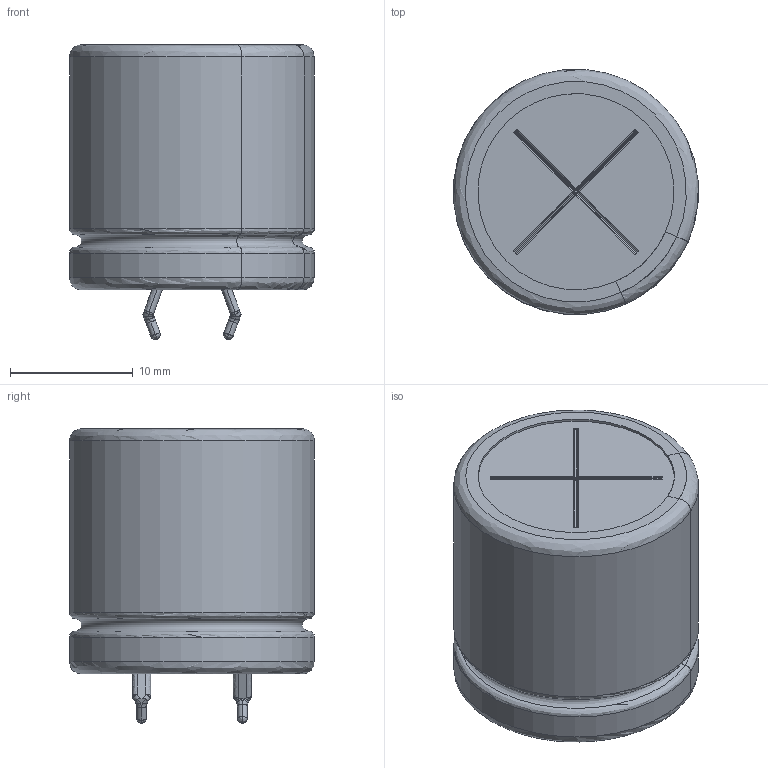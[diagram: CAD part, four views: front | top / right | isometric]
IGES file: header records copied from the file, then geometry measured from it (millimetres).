
Start section: JAMA-IS VERSION  1.0
Bounding box: 19.94 x 19.94 x 24.02 mm (x, y, z)
Surface area: 4964 mm2 (no closed solid volume)
Topology: 0 solids, 0 shells, 208 faces, 2162 edges, 2126 vertices
Faces by surface type: bspline 208
